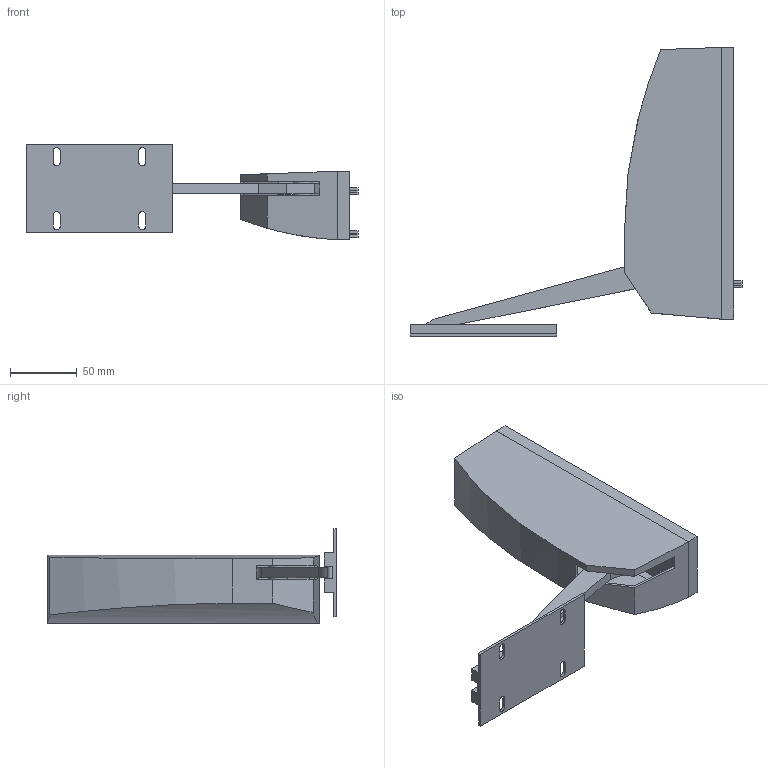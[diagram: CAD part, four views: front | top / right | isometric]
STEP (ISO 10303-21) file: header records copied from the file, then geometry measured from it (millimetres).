
FILE_DESCRIPTION( ( 'STEP AP214' ), '1' );
FILE_NAME( 'C:/Users/KOSH/Desktop/Export/Wingline L/9266111.stp', '2020-02-17T09:53:59', ( '' ), ( '' ), ' ', 'PARTsolutions', ' ' );
FILE_SCHEMA( ( 'AUTOMOTIVE_DESIGN { 1 0 10303 214 1 1 1 1 }' ) );
Length unit declared in the file: millimetre
Products named in the file (3): 9266111; _9236824_4; _adapter_3
Assembly tree (2 placements, depth 2):
  9266111
    _9236824_4
    _adapter_3
Bounding box: 248.5 x 216.39 x 71 mm (x, y, z)
Volume: 290236.6 mm3; surface area: 169990 mm2
Topology: 2 solids, 2 shells, 183 faces, 521 edges, 346 vertices
Faces by surface type: plane 132, cylinder 38, cone 11, bspline 2
Full cylindrical faces by diameter (mm): 4.2 x3, 4.8 x3, 6.2 x3, 10 x1, 14 x2, 15.6 x1
Entity records: 7503 total; most frequent: CARTESIAN_POINT 1245, ORIENTED_EDGE 974, DIRECTION 932, EDGE_CURVE 487, LINE 386, VECTOR 386, VERTEX_POINT 337, AXIS2_PLACEMENT_3D 273
